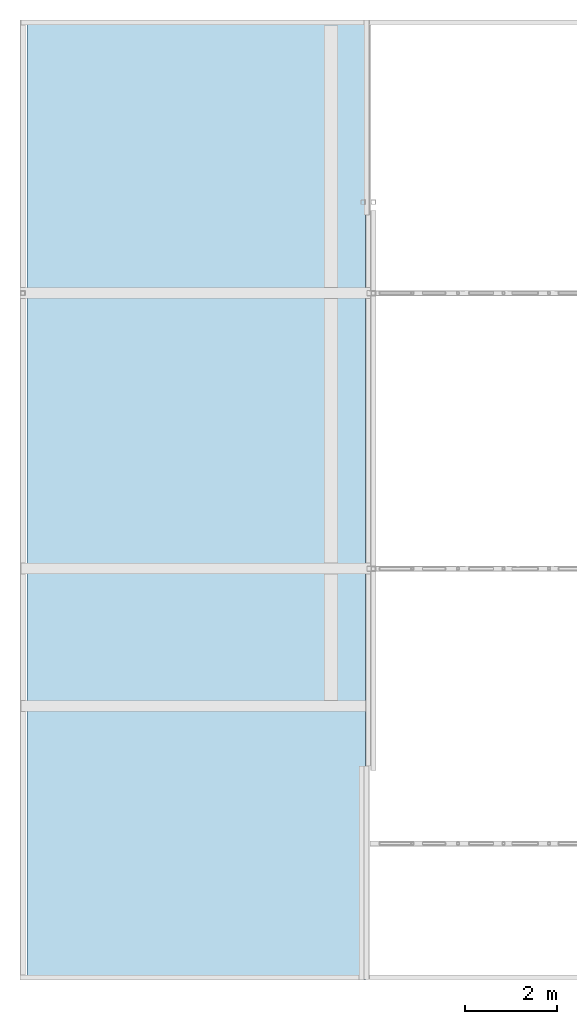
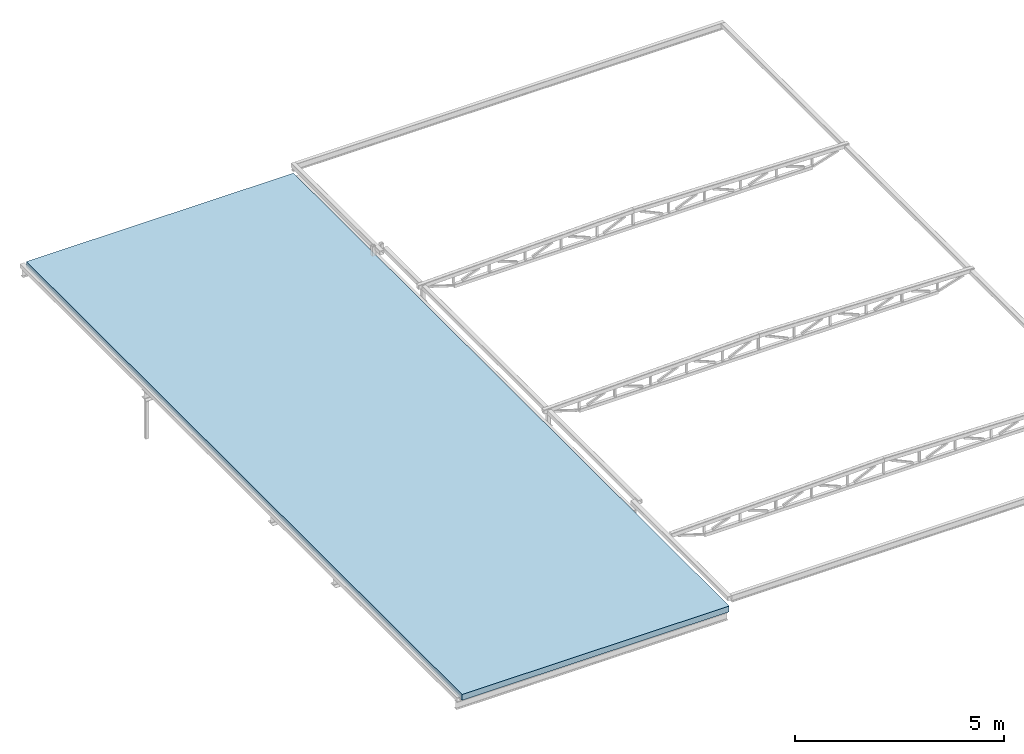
# One storey, part 12 of 12: 1 slab.
"""IFC2X3 building model written with IfcOpenShell, lengths in millimetres."""

from ifc_helpers import new_model, entity, si_unit, converted_unit, derived_unit, direction, frame, frame_2d, origin, place, context, subcontext, project, spatial, rectangle, extrude, material, layer, layer_set, layer_usage, element, save


model = new_model("IFC2X3")

# Units and contexts
model_context = context("Model", 3, precision=0.01, world=origin(), true_north=direction((6.12303176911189e-17, 1.0)))
body_context = subcontext(model_context, "Body", "Model", "MODEL_VIEW")
ifc_project = project(units=[si_unit("LENGTHUNIT", "METRE", prefix="MILLI"), si_unit("AREAUNIT", "SQUARE_METRE"), si_unit("VOLUMEUNIT", "CUBIC_METRE"), converted_unit("PLANEANGLEUNIT", "DEGREE", entity("IfcRatioMeasure", 0.0174532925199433), si_unit("PLANEANGLEUNIT", "RADIAN"), dimensions=[0, 0, 0, 0, 0, 0, 0]), si_unit("MASSUNIT", "GRAM", prefix="KILO"), derived_unit("MASSDENSITYUNIT", [(si_unit("MASSUNIT", "GRAM", prefix="KILO"), 1), (si_unit("LENGTHUNIT", "METRE"), -3)]), si_unit("TIMEUNIT", "SECOND"), si_unit("FREQUENCYUNIT", "HERTZ"), si_unit("THERMODYNAMICTEMPERATUREUNIT", "DEGREE_CELSIUS"), derived_unit("THERMALTRANSMITTANCEUNIT", [(si_unit("MASSUNIT", "GRAM", prefix="KILO"), 1), (si_unit("THERMODYNAMICTEMPERATUREUNIT", "KELVIN"), -1), (si_unit("TIMEUNIT", "SECOND"), -3)]), derived_unit("VOLUMETRICFLOWRATEUNIT", [(si_unit("LENGTHUNIT", "METRE"), 3), (si_unit("TIMEUNIT", "SECOND"), -1)]), si_unit("ELECTRICCURRENTUNIT", "AMPERE"), si_unit("ELECTRICVOLTAGEUNIT", "VOLT"), si_unit("POWERUNIT", "WATT"), si_unit("FORCEUNIT", "NEWTON", prefix="KILO"), si_unit("ILLUMINANCEUNIT", "LUX"), si_unit("LUMINOUSFLUXUNIT", "LUMEN"), si_unit("LUMINOUSINTENSITYUNIT", "CANDELA"), derived_unit("USERDEFINED", [(si_unit("MASSUNIT", "GRAM", prefix="KILO"), -1), (si_unit("LENGTHUNIT", "METRE"), -2), (si_unit("TIMEUNIT", "SECOND"), 3), (si_unit("LUMINOUSFLUXUNIT", "LUMEN"), 1)]), derived_unit("LINEARVELOCITYUNIT", [(si_unit("LENGTHUNIT", "METRE"), 1), (si_unit("TIMEUNIT", "SECOND"), -1)]), si_unit("PRESSUREUNIT", "PASCAL"), derived_unit("USERDEFINED", [(si_unit("LENGTHUNIT", "METRE"), -2), (si_unit("MASSUNIT", "GRAM", prefix="KILO"), 1), (si_unit("TIMEUNIT", "SECOND"), -2)])], contexts=[model_context])

# Site, building, storey
site_placement = place(None, frame((0.0, 0.0, 101000.0)))
site = spatial("IfcSite", under=ifc_project, at=site_placement, Name="Default", CompositionType="ELEMENT")
building_placement = place(site_placement, origin())
building = spatial("IfcBuilding", under=site, at=building_placement, CompositionType="ELEMENT")
storey_placement = place(building_placement, frame((0.0, 0.0, 6025.0)))
storey = spatial("IfcBuildingStorey", under=building, at=storey_placement, Name="03", CompositionType="ELEMENT", Elevation=6024.9999999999)

# Slab
ifc_material = material(Name="Structural Steel - S235")
ifc_layer = layer(ifc_material, 170.0)
ifc_layer_set = layer_set([ifc_layer], Name="Floor:TRP 170")
ifc_layer_usage = layer_usage(ifc_layer_set, "AXIS3", "POSITIVE", 0.0)
slab_placement = place(storey_placement, origin())
element("IfcSlab", 1, at=slab_placement, inside=storey, material=ifc_layer_usage, Name="Floor:TRP 170", ObjectType="Floor:TRP 170", PredefinedType="FLOOR", context=body_context, shape_type="SweptSolid", body=[
    extrude(rectangle(XDim=20896.9994308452, YDim=7394.81191520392, at=frame_2d((0.0, -4.54747350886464e-13), x_axis=(1.0, 0.0))), frame((7543.67045458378, 33889.4510375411, -275.0), z_axis=(0.0, 0.0, -1.0), x_axis=(0.0, 1.0, 0.0)), (0.0, 0.0, 1.0), 170.0),
])

save(model, "model.ifc")
